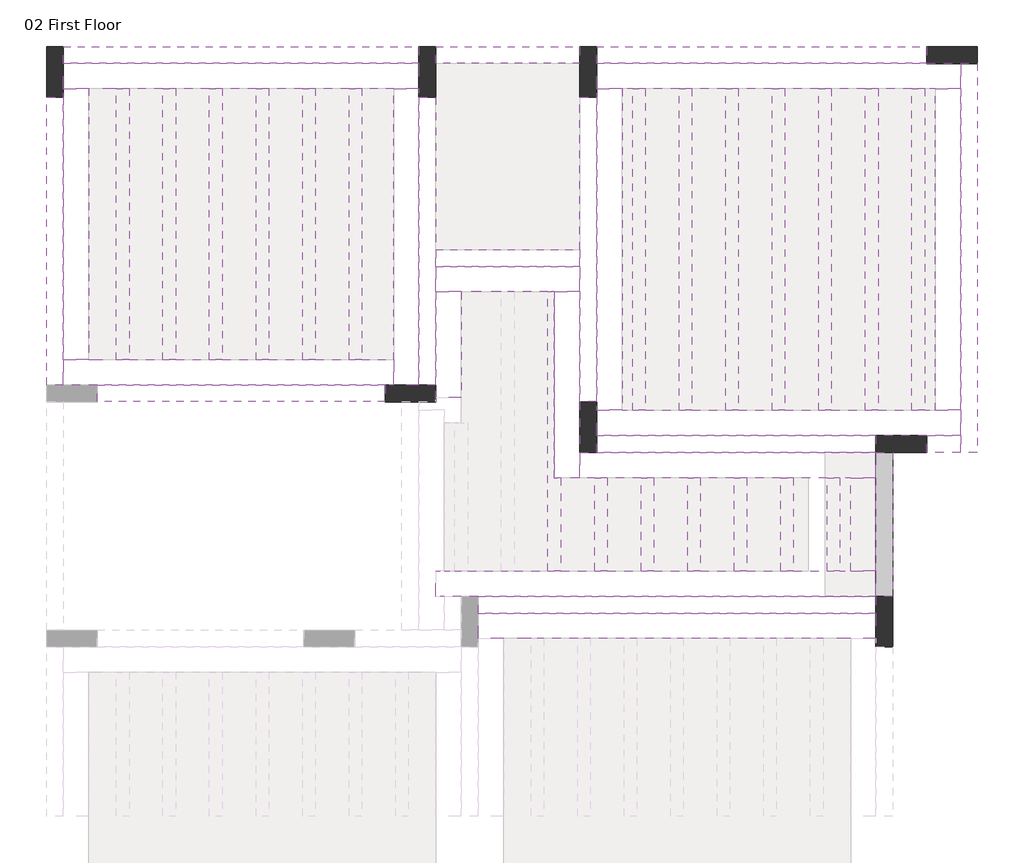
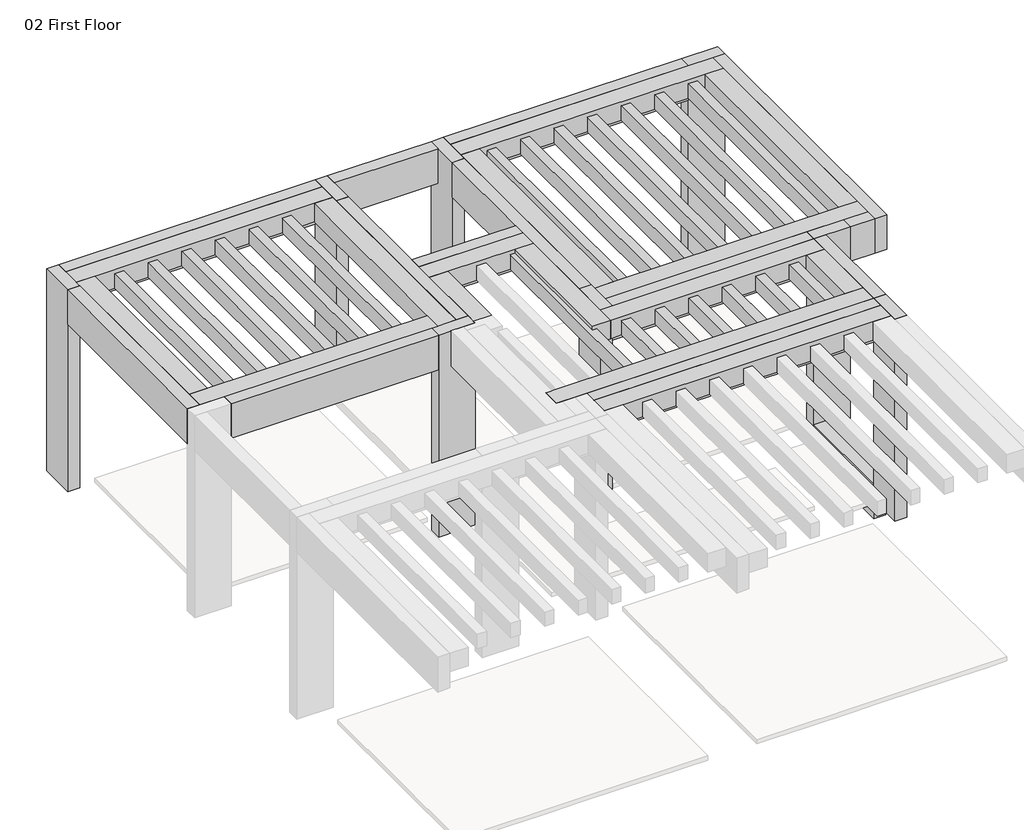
# One storey, part 3 of 3: 49 beams, 8 columns.
"""IFC4 building model written with IfcOpenShell, lengths in millimetres."""

from ifc_helpers import new_model, si_unit, frame, origin, place, context, project, spatial, polyline, outline, extrude, faceted_brep, element, save

model = new_model("IFC4")

# Units and contexts
model_context = context("Model", 3, world=origin())
ifc_project = project(units=[si_unit("LENGTHUNIT", "METRE", prefix="MILLI")], contexts=[model_context])

# Site, building, storey
site = spatial("IfcSite", under=ifc_project)
building = spatial("IfcBuilding", under=site)
storey = spatial("IfcBuildingStorey", under=building, Name="02 First Floor", Elevation=3500.0)

# Beams
placement = place(None, origin())
element("IfcBeam", 1, ObjectType="M_Concrete-Rectangular Beam : DB1- 20 x 60 cm", at=placement, inside=storey, context=model_context, shape_type="Brep", body=[
    faceted_brep([(3998.0737011, 1744.9958345, 3780.0), (4198.0737011, 1744.9958345, 3780.0), (4198.0737011, 3444.9958345, 3780.0), (3998.0737011, 3444.9958345, 3780.0), (4198.0737011, 1744.9958345, 3500.0), (4198.0737011, 1744.9958345, 3180.0), (4198.0737011, 3444.9958345, 3180.0), (3998.0737011, 3444.9958345, 3180.0), (3998.0737011, 1744.9958345, 3180.0), (3998.0737011, 3144.9958345, 3180.0), (3998.0737011, 1744.9958345, 3430.0), (3998.0737011, 1744.9958345, 3500.0), (3998.0737011, 3444.9958345, 3500.0), (3998.0737011, 3444.9958345, 3430.0)], [[[0, 1, 2, 3]], [[2, 1, 4, 5, 6]], [[7, 6, 5, 8, 9]], [[8, 10, 11, 0, 3, 12, 13, 7, 9]], [[1, 0, 11, 10, 8, 5, 4]], [[3, 2, 6, 7, 13, 12]]]),
])
element("IfcBeam", 2, ObjectType="M_Concrete-Rectangular Beam : DB1- 20 x 60 cm", at=placement, inside=storey, context=model_context, shape_type="Brep", body=[
    faceted_brep([(698.0737011, 8244.9958345, 7000.0), (698.0737011, 8044.9958345, 7000.0), (4598.0737011, 8044.9958345, 7000.0), (4598.0737011, 8244.9958345, 7000.0), (698.0737011, 8244.9958345, 6400.0), (4598.0737011, 8244.9958345, 6400.0), (698.0737011, 8044.9958345, 6400.0), (4598.0737011, 8044.9958345, 6400.0), (698.0737011, 8044.9958345, 6680.0)], [[[0, 1, 2, 3]], [[4, 0, 3, 5]], [[6, 4, 5, 7]], [[1, 8, 6, 7, 2]], [[1, 0, 4, 6, 8]], [[3, 2, 7, 5]]]),
])
element("IfcBeam", 3, ObjectType="M_Concrete-Rectangular Beam : DB1- 20 x 60 cm", at=placement, inside=storey, context=model_context, shape_type="Brep", body=[
    faceted_brep([(-1201.9262989, 8244.9958345, 7000.0), (-1201.9262989, 8044.9958345, 7000.0), (498.0737011, 8044.9958345, 7000.0), (498.0737011, 8244.9958345, 7000.0), (-1201.9262989, 8244.9958345, 6400.0), (498.0737011, 8244.9958345, 6400.0), (-1201.9262989, 8044.9958345, 6400.0), (498.0737011, 8044.9958345, 6400.0), (-1201.9262989, 8044.9958345, 6830.0), (-1201.9262989, 8044.9958345, 6680.0), (498.0737011, 8044.9958345, 6680.0), (498.0737011, 8044.9958345, 6830.0)], [[[0, 1, 2, 3]], [[4, 0, 3, 5]], [[6, 4, 5, 7]], [[1, 8, 9, 6, 7, 10, 11, 2]], [[1, 0, 4, 6, 9, 8]], [[3, 2, 11, 10, 7, 5]]]),
])
element("IfcBeam", 4, ObjectType="M_Concrete-Rectangular Beam : DB1- 20 x 60 cm", at=placement, inside=storey, context=model_context, shape_type="Brep", body=[
    faceted_brep([(-5601.9262989, 8244.9958345, 7000.0), (-5601.9262989, 8044.9958345, 7000.0), (-1401.9262989, 8044.9958345, 7000.0), (-1401.9262989, 8244.9958345, 7000.0), (-5601.9262989, 8244.9958345, 6400.0), (-1401.9262989, 8244.9958345, 6400.0), (-5601.9262989, 8044.9958345, 6400.0), (-1401.9262989, 8044.9958345, 6400.0), (-5601.9262989, 8044.9958345, 6680.0), (-1401.9262989, 8044.9958345, 6680.0)], [[[0, 1, 2, 3]], [[4, 0, 3, 5]], [[6, 4, 5, 7]], [[1, 8, 6, 7, 9, 2]], [[1, 0, 4, 6, 8]], [[3, 2, 9, 7, 5]]]),
])
element("IfcBeam", 5, ObjectType="M_Concrete-Rectangular Beam : DB1- 20 x 60 cm", at=placement, inside=storey, context=model_context, shape_type="Brep", body=[
    faceted_brep([(-5601.9262989, 7644.9958345, 7000.0), (-5801.9262989, 7644.9958345, 7000.0), (-5801.9262989, 4244.9958345, 7000.0), (-5601.9262989, 4244.9958345, 7000.0), (-5601.9262989, 4544.9958345, 7000.0), (-5801.9262989, 7644.9958345, 6400.0), (-5801.9262989, 4244.9958345, 6400.0), (-5601.9262989, 7644.9958345, 6400.0), (-5601.9262989, 4244.9958345, 6400.0), (-5601.9262989, 4244.9958345, 6680.0)], [[[0, 1, 2, 3, 4]], [[1, 5, 6, 2]], [[5, 7, 8, 6]], [[7, 0, 4, 3, 9, 8]], [[1, 0, 7, 5]], [[3, 2, 6, 8, 9]]]),
])
element("IfcBeam", 6, ObjectType="M_Concrete-Rectangular Beam : DB1- 20 x 60 cm", at=placement, inside=storey, context=model_context, shape_type="SweptSolid", body=[
    extrude(outline(polyline([(-1801.9262989, 4244.9958345), (-1801.9262989, 4044.9958345), (-5201.9262989, 4044.9958345), (-5201.9262989, 4244.9958345), (-1801.9262989, 4244.9958345)])), frame((0.0, 0.0, 6400.0), z_axis=(0.0, 0.0, 1.0), x_axis=(1.0, 0.0, 0.0)), (0.0, 0.0, 1.0), 600.0),
])
element("IfcBeam", 7, ObjectType="M_Concrete-Rectangular Beam : DB1- 20 x 60 cm", at=placement, inside=storey, context=model_context, shape_type="Brep", body=[
    faceted_brep([(-1201.9262989, 5844.9958345, 7000.0), (-1201.9262989, 5644.9958345, 7000.0), (498.0737011, 5644.9958345, 7000.0), (498.0737011, 5844.9958345, 7000.0), (-1201.9262989, 5844.9958345, 6400.0), (-1201.9262989, 5844.9958345, 6680.0), (-1201.9262989, 5844.9958345, 6830.0), (498.0737011, 5844.9958345, 6830.0), (498.0737011, 5844.9958345, 6680.0), (498.0737011, 5844.9958345, 6400.0), (-1201.9262989, 5644.9958345, 6400.0), (498.0737011, 5644.9958345, 6400.0), (-1201.9262989, 5644.9958345, 6680.0), (498.0737011, 5644.9958345, 6680.0)], [[[0, 1, 2, 3]], [[4, 5, 6, 0, 3, 7, 8, 9]], [[10, 4, 9, 11]], [[1, 12, 10, 11, 13, 2]], [[1, 0, 6, 5, 4, 10, 12]], [[3, 2, 13, 11, 9, 8, 7]]]),
])
element("IfcBeam", 8, ObjectType="M_Concrete-Rectangular Beam : DB1- 20 x 60 cm", at=placement, inside=storey, context=model_context, shape_type="Brep", body=[
    faceted_brep([(4198.0737011, 3444.9958345, 7000.0), (3998.0737011, 3444.9958345, 7000.0), (3998.0737011, 3144.9958345, 7000.0), (3998.0737011, 2044.9958345, 7000.0), (3998.0737011, 1744.9958345, 7000.0), (4198.0737011, 1744.9958345, 7000.0), (4198.0737011, 3444.9958345, 6400.0), (4198.0737011, 1744.9958345, 6400.0), (3998.0737011, 3444.9958345, 6400.0), (3998.0737011, 1744.9958345, 6400.0), (3998.0737011, 3444.9958345, 6680.0), (3998.0737011, 1744.9958345, 6680.0)], [[[0, 1, 2, 3, 4, 5]], [[6, 0, 5, 7]], [[8, 6, 7, 9]], [[1, 0, 6, 8, 10]], [[4, 11, 9, 7, 5]], [[1, 10, 8, 9, 11, 4, 3, 2]]]),
])
element("IfcBeam", 9, ObjectType="M_Concrete-Rectangular Beam : DB2- 20 x 60 cm", at=placement, inside=storey, context=model_context, shape_type="Brep", body=[
    faceted_brep([(-1201.9262989, 7644.9958345, 7000.0), (-1401.9262989, 7644.9958345, 7000.0), (-1401.9262989, 4244.9958345, 7000.0), (-1201.9262989, 4244.9958345, 7000.0), (-1201.9262989, 5344.9958345, 7000.0), (-1201.9262989, 5644.9958345, 7000.0), (-1201.9262989, 5844.9958345, 7000.0), (-1401.9262989, 7644.9958345, 6400.0), (-1401.9262989, 4244.9958345, 6400.0), (-1401.9262989, 4244.9958345, 6680.0), (-1201.9262989, 7644.9958345, 6400.0), (-1201.9262989, 5844.9958345, 6400.0), (-1201.9262989, 5644.9958345, 6400.0), (-1201.9262989, 4244.9958345, 6400.0)], [[[0, 1, 2, 3, 4, 5, 6]], [[1, 7, 8, 9, 2]], [[7, 10, 11, 12, 13, 8]], [[10, 0, 6, 5, 4, 3, 13, 12, 11]], [[1, 0, 10, 7]], [[3, 2, 9, 8, 13]]]),
])
element("IfcBeam", 10, ObjectType="M_Concrete-Rectangular Beam : DB2- 20 x 60 cm", at=placement, inside=storey, context=model_context, shape_type="Brep", body=[
    faceted_brep([(698.0737011, 7644.9958345, 7000.0), (498.0737011, 7644.9958345, 7000.0), (498.0737011, 5844.9958345, 7000.0), (498.0737011, 5644.9958345, 7000.0), (498.0737011, 5344.9958345, 7000.0), (498.0737011, 4044.9958345, 7000.0), (698.0737011, 4044.9958345, 7000.0), (498.0737011, 7644.9958345, 6400.0), (498.0737011, 5844.9958345, 6400.0), (498.0737011, 5644.9958345, 6400.0), (498.0737011, 4044.9958345, 6400.0), (698.0737011, 7644.9958345, 6400.0), (698.0737011, 4044.9958345, 6400.0)], [[[0, 1, 2, 3, 4, 5, 6]], [[1, 7, 8, 9, 10, 5, 4, 3, 2]], [[7, 11, 12, 10, 9, 8]], [[11, 0, 6, 12]], [[1, 0, 11, 7]], [[6, 5, 10, 12]]]),
])
element("IfcBeam", 11, ObjectType="M_Concrete-Rectangular Beam : DB2- 20 x 60 cm", at=placement, inside=storey, context=model_context, shape_type="Brep", body=[
    faceted_brep([(-701.9262989, 1744.9958345, 7000.0), (-701.9262989, 1544.9958345, 7000.0), (3998.0737011, 1544.9958345, 7000.0), (3998.0737011, 1744.9958345, 7000.0), (-701.9262989, 1544.9958345, 6680.0), (-701.9262989, 1544.9958345, 6400.0), (3998.0737011, 1544.9958345, 6400.0), (3998.0737011, 1544.9958345, 6680.0), (-701.9262989, 1744.9958345, 6400.0), (3998.0737011, 1744.9958345, 6400.0), (3998.0737011, 1744.9958345, 6680.0)], [[[0, 1, 2, 3]], [[1, 4, 5, 6, 7, 2]], [[5, 8, 9, 6]], [[8, 0, 3, 10, 9]], [[1, 0, 8, 5, 4]], [[3, 2, 7, 6, 9, 10]]]),
])
element("IfcBeam", 12, ObjectType="M_Concrete-Rectangular Beam : DB2- 20 x 60 cm", at=placement, inside=storey, context=model_context, shape_type="Brep", body=[
    faceted_brep([(3998.0737011, 3444.9958345, 7000.0), (3998.0737011, 3644.9958345, 7000.0), (698.0737011, 3644.9958345, 7000.0), (698.0737011, 3444.9958345, 7000.0), (3998.0737011, 3644.9958345, 6400.0), (698.0737011, 3644.9958345, 6400.0), (698.0737011, 3644.9958345, 6680.0), (3998.0737011, 3444.9958345, 6400.0), (698.0737011, 3444.9958345, 6400.0), (3998.0737011, 3444.9958345, 6680.0)], [[[0, 1, 2, 3]], [[1, 4, 5, 6, 2]], [[4, 7, 8, 5]], [[7, 9, 0, 3, 8]], [[1, 0, 9, 7, 4]], [[3, 2, 6, 5, 8]]]),
])
element("IfcBeam", 13, ObjectType="M_Concrete-Rectangular Beam : DB2- 20 x 60 cm", at=placement, inside=storey, context=model_context, shape_type="Brep", body=[
    faceted_brep([(4998.0737011, 3444.9958345, 7000.0), (5198.0737011, 3444.9958345, 7000.0), (5198.0737011, 8044.9958345, 7000.0), (4998.0737011, 8044.9958345, 7000.0), (4998.0737011, 7744.9958345, 7000.0), (4998.0737011, 3944.9958345, 7000.0), (4998.0737011, 3644.9958345, 7000.0), (4998.0737011, 3444.9958345, 6400.0), (4998.0737011, 8044.9958345, 6680.0), (4998.0737011, 8044.9958345, 6400.0), (4998.0737011, 3644.9958345, 6400.0), (5198.0737011, 3444.9958345, 6400.0), (5198.0737011, 8044.9958345, 6400.0)], [[[0, 1, 2, 3, 4, 5, 6]], [[7, 0, 6, 5, 4, 3, 8, 9, 10]], [[11, 7, 10, 9, 12]], [[1, 11, 12, 2]], [[1, 0, 7, 11]], [[3, 2, 12, 9, 8]]]),
])
element("IfcBeam", 14, ObjectType="M_Concrete-Rectangular Beam : DBC- 20 x 60 cm", at=placement, inside=storey, context=model_context, shape_type="Brep", body=[
    faceted_brep([(4998.0737011, 3444.9958345, 7000.0), (4998.0737011, 3644.9958345, 7000.0), (4598.0737011, 3644.9958345, 7000.0), (4598.0737011, 3444.9958345, 7000.0), (4998.0737011, 3444.9958345, 6400.0), (4598.0737011, 3444.9958345, 6400.0), (4998.0737011, 3644.9958345, 6400.0), (4598.0737011, 3644.9958345, 6400.0), (4998.0737011, 3644.9958345, 6680.0)], [[[0, 1, 2, 3]], [[4, 0, 3, 5]], [[6, 4, 5, 7]], [[1, 8, 6, 7, 2]], [[1, 0, 4, 6, 8]], [[3, 2, 7, 5]]]),
])
element("IfcBeam", 15, ObjectType="M_Concrete-Rectangular Beam : P- 30 x 32 cm", at=placement, inside=storey, context=model_context, shape_type="Brep", body=[
    faceted_brep([(-5601.9262989, 8044.9958345, 7000.0), (-5601.9262989, 7744.9958345, 7000.0), (-5301.9262989, 7744.9958345, 7000.0), (-1701.9262989, 7744.9958345, 7000.0), (-1401.9262989, 7744.9958345, 7000.0), (-1401.9262989, 8044.9958345, 7000.0), (-5601.9262989, 8044.9958345, 6680.0), (-1401.9262989, 8044.9958345, 6680.0), (-5601.9262989, 7744.9958345, 6680.0), (-1401.9262989, 7744.9958345, 6680.0), (-1701.9262989, 7744.9958345, 6680.0), (-2076.9262989, 7744.9958345, 6680.0), (-2226.9262989, 7744.9958345, 6680.0), (-2626.9262989, 7744.9958345, 6680.0), (-2776.9262989, 7744.9958345, 6680.0), (-3176.9262989, 7744.9958345, 6680.0), (-3326.9262989, 7744.9958345, 6680.0), (-3726.9262989, 7744.9958345, 6680.0), (-3876.9262989, 7744.9958345, 6680.0), (-4276.9262989, 7744.9958345, 6680.0), (-4426.9262989, 7744.9958345, 6680.0), (-4826.9262989, 7744.9958345, 6680.0), (-4976.9262989, 7744.9958345, 6680.0), (-5301.9262989, 7744.9958345, 6680.0)], [[[0, 1, 2, 3, 4, 5]], [[6, 0, 5, 7]], [[8, 6, 7, 9, 10, 11, 12, 13, 14, 15, 16, 17, 18, 19, 20, 21, 22, 23]], [[1, 8, 23, 22, 21, 20, 19, 18, 17, 16, 15, 14, 13, 12, 11, 10, 9, 4, 3, 2]], [[8, 1, 0, 6]], [[4, 9, 7, 5]]]),
])
element("IfcBeam", 16, ObjectType="M_Concrete-Rectangular Beam : P- 30 x 32 cm", at=placement, inside=storey, context=model_context, shape_type="Brep", body=[
    faceted_brep([(-1701.9262989, 4244.9958345, 7000.0), (-1401.9262989, 4244.9958345, 7000.0), (-1401.9262989, 7644.9958345, 7000.0), (-1401.9262989, 7744.9958345, 7000.0), (-1701.9262989, 7744.9958345, 7000.0), (-1701.9262989, 4544.9958345, 7000.0), (-1701.9262989, 4244.9958345, 6680.0), (-1701.9262989, 7744.9958345, 6930.0), (-1701.9262989, 7744.9958345, 6680.0), (-1701.9262989, 4544.9958345, 6680.0), (-1401.9262989, 4244.9958345, 6680.0), (-1401.9262989, 7744.9958345, 6680.0)], [[[0, 1, 2, 3, 4, 5]], [[6, 0, 5, 4, 7, 8, 9]], [[10, 6, 9, 8, 11]], [[1, 10, 11, 3, 2]], [[4, 3, 11, 8, 7]], [[1, 0, 6, 10]]]),
])
element("IfcBeam", 17, ObjectType="M_Concrete-Rectangular Beam : P- 30 x 32 cm", at=placement, inside=storey, context=model_context, shape_type="Brep", body=[
    faceted_brep([(-5601.9262989, 4544.9958345, 7000.0), (-5601.9262989, 4244.9958345, 7000.0), (-5201.9262989, 4244.9958345, 7000.0), (-1801.9262989, 4244.9958345, 7000.0), (-1701.9262989, 4244.9958345, 7000.0), (-1701.9262989, 4544.9958345, 7000.0), (-5301.9262989, 4544.9958345, 7000.0), (-5601.9262989, 4544.9958345, 6680.0), (-1701.9262989, 4544.9958345, 6930.0), (-1701.9262989, 4544.9958345, 6680.0), (-2076.9262989, 4544.9958345, 6680.0), (-2226.9262989, 4544.9958345, 6680.0), (-2626.9262989, 4544.9958345, 6680.0), (-2776.9262989, 4544.9958345, 6680.0), (-3176.9262989, 4544.9958345, 6680.0), (-3326.9262989, 4544.9958345, 6680.0), (-3726.9262989, 4544.9958345, 6680.0), (-3876.9262989, 4544.9958345, 6680.0), (-4276.9262989, 4544.9958345, 6680.0), (-4426.9262989, 4544.9958345, 6680.0), (-4826.9262989, 4544.9958345, 6680.0), (-4976.9262989, 4544.9958345, 6680.0), (-5301.9262989, 4544.9958345, 6680.0), (-5601.9262989, 4244.9958345, 6680.0), (-1701.9262989, 4244.9958345, 6680.0)], [[[0, 1, 2, 3, 4, 5, 6]], [[7, 0, 6, 5, 8, 9, 10, 11, 12, 13, 14, 15, 16, 17, 18, 19, 20, 21, 22]], [[23, 7, 22, 21, 20, 19, 18, 17, 16, 15, 14, 13, 12, 11, 10, 9, 24]], [[1, 23, 24, 4, 3, 2]], [[5, 4, 24, 9, 8]], [[1, 0, 7, 23]]]),
])
element("IfcBeam", 18, ObjectType="M_Concrete-Rectangular Beam : P- 30 x 32 cm", at=placement, inside=storey, context=model_context, shape_type="Brep", body=[
    faceted_brep([(-5601.9262989, 4544.9958345, 7000.0), (-5301.9262989, 4544.9958345, 7000.0), (-5301.9262989, 7744.9958345, 7000.0), (-5601.9262989, 7744.9958345, 7000.0), (-5601.9262989, 7644.9958345, 7000.0), (-5301.9262989, 4544.9958345, 6930.0), (-5301.9262989, 4544.9958345, 6680.0), (-5301.9262989, 7744.9958345, 6680.0), (-5301.9262989, 7744.9958345, 6930.0), (-5601.9262989, 4544.9958345, 6680.0), (-5601.9262989, 7744.9958345, 6680.0)], [[[0, 1, 2, 3, 4]], [[1, 5, 6, 7, 8, 2]], [[6, 9, 10, 7]], [[9, 0, 4, 3, 10]], [[1, 0, 9, 6, 5]], [[3, 2, 8, 7, 10]]]),
])
element("IfcBeam", 19, ObjectType="M_Concrete-Rectangular Beam : P- 30 x 32 cm", at=placement, inside=storey, context=model_context, shape_type="Brep", body=[
    faceted_brep([(4998.0737011, 7744.9958345, 7000.0), (4998.0737011, 8044.9958345, 7000.0), (4598.0737011, 8044.9958345, 7000.0), (698.0737011, 8044.9958345, 7000.0), (698.0737011, 7744.9958345, 7000.0), (998.0737011, 7744.9958345, 7000.0), (4698.0737011, 7744.9958345, 7000.0), (4998.0737011, 8044.9958345, 6680.0), (698.0737011, 8044.9958345, 6680.0), (4998.0737011, 7744.9958345, 6680.0), (4698.0737011, 7744.9958345, 6680.0), (4573.0737011, 7744.9958345, 6680.0), (4423.0737011, 7744.9958345, 6680.0), (4023.0737011, 7744.9958345, 6680.0), (3873.0737011, 7744.9958345, 6680.0), (3473.0737011, 7744.9958345, 6680.0), (3323.0737011, 7744.9958345, 6680.0), (2923.0737011, 7744.9958345, 6680.0), (2773.0737011, 7744.9958345, 6680.0), (2373.0737011, 7744.9958345, 6680.0), (2223.0737011, 7744.9958345, 6680.0), (1823.0737011, 7744.9958345, 6680.0), (1673.0737011, 7744.9958345, 6680.0), (1273.0737011, 7744.9958345, 6680.0), (1123.0737011, 7744.9958345, 6680.0), (998.0737011, 7744.9958345, 6680.0), (698.0737011, 7744.9958345, 6680.0)], [[[0, 1, 2, 3, 4, 5, 6]], [[1, 7, 8, 3, 2]], [[7, 9, 10, 11, 12, 13, 14, 15, 16, 17, 18, 19, 20, 21, 22, 23, 24, 25, 26, 8]], [[9, 0, 6, 5, 4, 26, 25, 24, 23, 22, 21, 20, 19, 18, 17, 16, 15, 14, 13, 12, 11, 10]], [[1, 0, 9, 7]], [[3, 8, 26, 4]]]),
])
element("IfcBeam", 20, ObjectType="M_Concrete-Rectangular Beam : P- 30 x 32 cm", at=placement, inside=storey, context=model_context, shape_type="Brep", body=[
    faceted_brep([(998.0737011, 7744.9958345, 7000.0), (698.0737011, 7744.9958345, 7000.0), (698.0737011, 7644.9958345, 7000.0), (698.0737011, 4044.9958345, 7000.0), (698.0737011, 3944.9958345, 7000.0), (998.0737011, 3944.9958345, 7000.0), (698.0737011, 7744.9958345, 6680.0), (698.0737011, 3944.9958345, 6680.0), (998.0737011, 7744.9958345, 6680.0), (998.0737011, 3944.9958345, 6680.0), (998.0737011, 7744.9958345, 6930.0), (998.0737011, 3944.9958345, 6930.0)], [[[0, 1, 2, 3, 4, 5]], [[1, 6, 7, 4, 3, 2]], [[6, 8, 9, 7]], [[8, 10, 0, 5, 11, 9]], [[1, 0, 10, 8, 6]], [[5, 4, 7, 9, 11]]]),
])
element("IfcBeam", 21, ObjectType="M_Concrete-Rectangular Beam : P- 30 x 32 cm", at=placement, inside=storey, context=model_context, shape_type="Brep", body=[
    faceted_brep([(4998.0737011, 3644.9958345, 7000.0), (4998.0737011, 3944.9958345, 7000.0), (4698.0737011, 3944.9958345, 7000.0), (998.0737011, 3944.9958345, 7000.0), (698.0737011, 3944.9958345, 7000.0), (698.0737011, 3644.9958345, 7000.0), (3998.0737011, 3644.9958345, 7000.0), (4598.0737011, 3644.9958345, 7000.0), (4998.0737011, 3644.9958345, 6680.0), (698.0737011, 3644.9958345, 6680.0), (4998.0737011, 3944.9958345, 6680.0), (698.0737011, 3944.9958345, 6680.0), (998.0737011, 3944.9958345, 6680.0), (1123.0737011, 3944.9958345, 6680.0), (1273.0737011, 3944.9958345, 6680.0), (1673.0737011, 3944.9958345, 6680.0), (1823.0737011, 3944.9958345, 6680.0), (2223.0737011, 3944.9958345, 6680.0), (2373.0737011, 3944.9958345, 6680.0), (2773.0737011, 3944.9958345, 6680.0), (2923.0737011, 3944.9958345, 6680.0), (3323.0737011, 3944.9958345, 6680.0), (3473.0737011, 3944.9958345, 6680.0), (3873.0737011, 3944.9958345, 6680.0), (4023.0737011, 3944.9958345, 6680.0), (4423.0737011, 3944.9958345, 6680.0), (4573.0737011, 3944.9958345, 6680.0), (4698.0737011, 3944.9958345, 6680.0)], [[[0, 1, 2, 3, 4, 5, 6, 7]], [[8, 0, 7, 6, 5, 9]], [[10, 8, 9, 11, 12, 13, 14, 15, 16, 17, 18, 19, 20, 21, 22, 23, 24, 25, 26, 27]], [[1, 10, 27, 26, 25, 24, 23, 22, 21, 20, 19, 18, 17, 16, 15, 14, 13, 12, 11, 4, 3, 2]], [[1, 0, 8, 10]], [[4, 11, 9, 5]]]),
])
element("IfcBeam", 22, ObjectType="M_Concrete-Rectangular Beam : P- 30 x 32 cm", at=placement, inside=storey, context=model_context, shape_type="Brep", body=[
    faceted_brep([(4998.0737011, 7744.9958345, 7000.0), (4698.0737011, 7744.9958345, 7000.0), (4698.0737011, 3944.9958345, 7000.0), (4998.0737011, 3944.9958345, 7000.0), (4998.0737011, 7744.9958345, 6680.0), (4998.0737011, 3944.9958345, 6680.0), (4698.0737011, 7744.9958345, 6680.0), (4698.0737011, 3944.9958345, 6680.0), (4698.0737011, 7744.9958345, 6930.0), (4698.0737011, 3944.9958345, 6930.0)], [[[0, 1, 2, 3]], [[4, 0, 3, 5]], [[6, 4, 5, 7]], [[1, 8, 6, 7, 9, 2]], [[1, 0, 4, 6, 8]], [[3, 2, 9, 7, 5]]]),
])
element("IfcBeam", 23, ObjectType="M_Concrete-Rectangular Beam : P- 30 x 32 cm", at=placement, inside=storey, context=model_context, shape_type="Brep", body=[
    faceted_brep([(-701.9262989, 1544.9958345, 7000.0), (-701.9262989, 1244.9958345, 7000.0), (-401.9262989, 1244.9958345, 7000.0), (3698.0737011, 1244.9958345, 7000.0), (3998.0737011, 1244.9958345, 7000.0), (3998.0737011, 1544.9958345, 7000.0), (-701.9262989, 1544.9958345, 6680.0), (3998.0737011, 1544.9958345, 6680.0), (-701.9262989, 1244.9958345, 6680.0), (3998.0737011, 1244.9958345, 6680.0), (3698.0737011, 1244.9958345, 6680.0), (3373.0737011, 1244.9958345, 6680.0), (3223.0737011, 1244.9958345, 6680.0), (2823.0737011, 1244.9958345, 6680.0), (2673.0737011, 1244.9958345, 6680.0), (2273.0737011, 1244.9958345, 6680.0), (2123.0737011, 1244.9958345, 6680.0), (1723.0737011, 1244.9958345, 6680.0), (1573.0737011, 1244.9958345, 6680.0), (1173.0737011, 1244.9958345, 6680.0), (1023.0737011, 1244.9958345, 6680.0), (623.0737011, 1244.9958345, 6680.0), (473.0737011, 1244.9958345, 6680.0), (73.0737011, 1244.9958345, 6680.0), (-76.9262989, 1244.9958345, 6680.0), (-401.9262989, 1244.9958345, 6680.0)], [[[0, 1, 2, 3, 4, 5]], [[6, 0, 5, 7]], [[8, 6, 7, 9, 10, 11, 12, 13, 14, 15, 16, 17, 18, 19, 20, 21, 22, 23, 24, 25]], [[1, 8, 25, 24, 23, 22, 21, 20, 19, 18, 17, 16, 15, 14, 13, 12, 11, 10, 9, 4, 3, 2]], [[1, 0, 6, 8]], [[5, 4, 9, 7]]]),
])
element("IfcBeam", 24, ObjectType="M_Concrete-Rectangular Beam : P- 30 x 32 cm", at=placement, inside=storey, context=model_context, shape_type="Brep", body=[
    faceted_brep([(498.0737011, 5344.9958345, 7000.0), (498.0737011, 5644.9958345, 7000.0), (-1201.9262989, 5644.9958345, 7000.0), (-1201.9262989, 5344.9958345, 7000.0), (-901.9262989, 5344.9958345, 7000.0), (198.0737011, 5344.9958345, 7000.0), (498.0737011, 5344.9958345, 6680.0), (-1201.9262989, 5344.9958345, 6680.0), (-901.9262989, 5344.9958345, 6680.0), (-426.9262989, 5344.9958345, 6680.0), (-276.9262989, 5344.9958345, 6680.0), (123.0737011, 5344.9958345, 6680.0), (198.0737011, 5344.9958345, 6680.0), (498.0737011, 5644.9958345, 6680.0), (-1201.9262989, 5644.9958345, 6680.0)], [[[0, 1, 2, 3, 4, 5]], [[6, 0, 5, 4, 3, 7, 8, 9, 10, 11, 12]], [[13, 6, 12, 11, 10, 9, 8, 7, 14]], [[1, 13, 14, 2]], [[1, 0, 6, 13]], [[3, 2, 14, 7]]]),
])
element("IfcBeam", 25, ObjectType="M_Concrete-Rectangular Beam : P- 30 x 32 cm", at=placement, inside=storey, context=model_context, shape_type="Brep", body=[
    faceted_brep([(498.0737011, 5344.9958345, 7000.0), (198.0737011, 5344.9958345, 7000.0), (198.0737011, 3144.9958345, 7000.0), (498.0737011, 3144.9958345, 7000.0), (498.0737011, 3444.9958345, 7000.0), (498.0737011, 4044.9958345, 7000.0), (198.0737011, 5344.9958345, 6930.0), (198.0737011, 5344.9958345, 6680.0), (198.0737011, 3144.9958345, 6680.0), (198.0737011, 3144.9958345, 6930.0), (498.0737011, 5344.9958345, 6680.0), (498.0737011, 3444.9958345, 6680.0), (498.0737011, 3144.9958345, 6680.0), (273.0737011, 3144.9958345, 6680.0), (498.0737011, 3144.9958345, 6930.0)], [[[0, 1, 2, 3, 4, 5]], [[2, 1, 6, 7, 8, 9]], [[7, 10, 11, 12, 13, 8]], [[10, 0, 5, 4, 3, 14, 12, 11]], [[1, 0, 10, 7, 6]], [[3, 2, 9, 8, 13, 12, 14]]]),
])
element("IfcBeam", 26, ObjectType="M_Concrete-Rectangular Beam : P- 30 x 32 cm", at=placement, inside=storey, context=model_context, shape_type="Brep", body=[
    faceted_brep([(498.0737011, 3444.9958345, 7000.0), (498.0737011, 3144.9958345, 7000.0), (3698.0737011, 3144.9958345, 7000.0), (3998.0737011, 3144.9958345, 7000.0), (3998.0737011, 3444.9958345, 7000.0), (698.0737011, 3444.9958345, 7000.0), (498.0737011, 3144.9958345, 6680.0), (673.0737011, 3144.9958345, 6680.0), (823.0737011, 3144.9958345, 6680.0), (1223.0737011, 3144.9958345, 6680.0), (1373.0737011, 3144.9958345, 6680.0), (1773.0737011, 3144.9958345, 6680.0), (1923.0737011, 3144.9958345, 6680.0), (2323.0737011, 3144.9958345, 6680.0), (2473.0737011, 3144.9958345, 6680.0), (2873.0737011, 3144.9958345, 6680.0), (3023.0737011, 3144.9958345, 6680.0), (3423.0737011, 3144.9958345, 6680.0), (3573.0737011, 3144.9958345, 6680.0), (3698.0737011, 3144.9958345, 6680.0), (3998.0737011, 3144.9958345, 6680.0), (498.0737011, 3144.9958345, 6930.0), (498.0737011, 3444.9958345, 6680.0), (3998.0737011, 3444.9958345, 6680.0)], [[[0, 1, 2, 3, 4, 5]], [[6, 7, 8, 9, 10, 11, 12, 13, 14, 15, 16, 17, 18, 19, 20, 3, 2, 1, 21]], [[6, 22, 23, 20, 19, 18, 17, 16, 15, 14, 13, 12, 11, 10, 9, 8, 7]], [[22, 0, 5, 4, 23]], [[1, 0, 22, 6, 21]], [[4, 3, 20, 23]]]),
])
element("IfcBeam", 27, ObjectType="M_Concrete-Rectangular Beam : P- 30 x 32 cm", at=placement, inside=storey, context=model_context, shape_type="Brep", body=[
    faceted_brep([(3998.0737011, 3144.9958345, 7000.0), (3698.0737011, 3144.9958345, 7000.0), (3698.0737011, 2044.9958345, 7000.0), (3998.0737011, 2044.9958345, 7000.0), (3698.0737011, 3144.9958345, 6930.0), (3698.0737011, 3144.9958345, 6680.0), (3698.0737011, 2044.9958345, 6680.0), (3698.0737011, 2044.9958345, 6930.0), (3998.0737011, 3144.9958345, 6680.0), (3998.0737011, 2044.9958345, 6680.0)], [[[0, 1, 2, 3]], [[1, 4, 5, 6, 7, 2]], [[5, 8, 9, 6]], [[8, 0, 3, 9]], [[1, 0, 8, 5, 4]], [[3, 2, 7, 6, 9]]]),
])
element("IfcBeam", 28, ObjectType="M_Concrete-Rectangular Beam : P- 30 x 32 cm", at=placement, inside=storey, context=model_context, shape_type="Brep", body=[
    faceted_brep([(-1201.9262989, 2044.9958345, 7000.0), (-1201.9262989, 1744.9958345, 7000.0), (-1101.9262989, 1744.9958345, 7000.0), (-901.9262989, 1744.9958345, 7000.0), (-701.9262989, 1744.9958345, 7000.0), (3998.0737011, 1744.9958345, 7000.0), (3998.0737011, 2044.9958345, 7000.0), (3698.0737011, 2044.9958345, 7000.0), (-1101.9262989, 2044.9958345, 7000.0), (-1201.9262989, 2044.9958345, 6680.0), (3998.0737011, 2044.9958345, 6680.0), (3698.0737011, 2044.9958345, 6680.0), (3573.0737011, 2044.9958345, 6680.0), (3423.0737011, 2044.9958345, 6680.0), (3023.0737011, 2044.9958345, 6680.0), (2873.0737011, 2044.9958345, 6680.0), (2473.0737011, 2044.9958345, 6680.0), (2323.0737011, 2044.9958345, 6680.0), (1923.0737011, 2044.9958345, 6680.0), (1773.0737011, 2044.9958345, 6680.0), (1373.0737011, 2044.9958345, 6680.0), (1223.0737011, 2044.9958345, 6680.0), (823.0737011, 2044.9958345, 6680.0), (673.0737011, 2044.9958345, 6680.0), (273.0737011, 2044.9958345, 6680.0), (123.0737011, 2044.9958345, 6680.0), (-276.9262989, 2044.9958345, 6680.0), (-426.9262989, 2044.9958345, 6680.0), (-826.9262989, 2044.9958345, 6680.0), (-976.9262989, 2044.9958345, 6680.0), (-1101.9262989, 2044.9958345, 6680.0), (-1201.9262989, 1744.9958345, 6680.0), (3998.0737011, 1744.9958345, 6680.0), (-901.9262989, 1744.9958345, 6680.0), (-1101.9262989, 1744.9958345, 6680.0)], [[[0, 1, 2, 3, 4, 5, 6, 7, 8]], [[9, 0, 8, 7, 6, 10, 11, 12, 13, 14, 15, 16, 17, 18, 19, 20, 21, 22, 23, 24, 25, 26, 27, 28, 29, 30]], [[31, 9, 30, 29, 28, 27, 26, 25, 24, 23, 22, 21, 20, 19, 18, 17, 16, 15, 14, 13, 12, 11, 10, 32, 33, 34]], [[1, 31, 34, 33, 32, 5, 4, 3, 2]], [[1, 0, 9, 31]], [[6, 5, 32, 10]]]),
])
element("IfcBeam", 29, ObjectType="M_Concrete-Rectangular Beam : P- 30 x 32 cm", at=placement, inside=storey, context=model_context, shape_type="Brep", body=[
    faceted_brep([(-1201.9262989, 4094.9958345, 7000.0), (-901.9262989, 4094.9958345, 7000.0), (-901.9262989, 5344.9958345, 7000.0), (-1201.9262989, 5344.9958345, 7000.0), (-1201.9262989, 4244.9958345, 7000.0), (-901.9262989, 4094.9958345, 6930.0), (-901.9262989, 4094.9958345, 6680.0), (-901.9262989, 5344.9958345, 6680.0), (-901.9262989, 5344.9958345, 6930.0), (-1201.9262989, 4094.9958345, 6680.0), (-1201.9262989, 5344.9958345, 6680.0)], [[[0, 1, 2, 3, 4]], [[2, 1, 5, 6, 7, 8]], [[6, 9, 10, 7]], [[9, 0, 4, 3, 10]], [[1, 0, 9, 6, 5]], [[3, 2, 8, 7, 10]]]),
])
element("IfcBeam", 30, ObjectType="M_Pan Joist : RB1- 32 x 15", at=placement, inside=storey, context=model_context, shape_type="SweptSolid", body=[
    extrude(outline(polyline([(-4976.9262989, 7744.9958345), (-4826.9262989, 7744.9958345), (-4826.9262989, 4544.9958345), (-4976.9262989, 4544.9958345), (-4976.9262989, 7744.9958345)])), frame((0.0, 0.0, 6680.0), z_axis=(0.0, 0.0, 1.0), x_axis=(1.0, 0.0, 0.0)), (0.0, 0.0, 1.0), 250.0),
])
element("IfcBeam", 31, ObjectType="M_Pan Joist : RB1- 32 x 15", at=placement, inside=storey, context=model_context, shape_type="SweptSolid", body=[
    extrude(outline(polyline([(-4426.9262989, 7744.9958345), (-4276.9262989, 7744.9958345), (-4276.9262989, 4544.9958345), (-4426.9262989, 4544.9958345), (-4426.9262989, 7744.9958345)])), frame((0.0, 0.0, 6680.0), z_axis=(0.0, 0.0, 1.0), x_axis=(1.0, 0.0, 0.0)), (0.0, 0.0, 1.0), 250.0),
])
element("IfcBeam", 32, ObjectType="M_Pan Joist : RB1- 32 x 15", at=placement, inside=storey, context=model_context, shape_type="SweptSolid", body=[
    extrude(outline(polyline([(-3876.9262989, 7744.9958345), (-3726.9262989, 7744.9958345), (-3726.9262989, 4544.9958345), (-3876.9262989, 4544.9958345), (-3876.9262989, 7744.9958345)])), frame((0.0, 0.0, 6680.0), z_axis=(0.0, 0.0, 1.0), x_axis=(1.0, 0.0, 0.0)), (0.0, 0.0, 1.0), 250.0),
])
element("IfcBeam", 33, ObjectType="M_Pan Joist : RB1- 32 x 15", at=placement, inside=storey, context=model_context, shape_type="SweptSolid", body=[
    extrude(outline(polyline([(-3326.9262989, 7744.9958345), (-3176.9262989, 7744.9958345), (-3176.9262989, 4544.9958345), (-3326.9262989, 4544.9958345), (-3326.9262989, 7744.9958345)])), frame((0.0, 0.0, 6680.0), z_axis=(0.0, 0.0, 1.0), x_axis=(1.0, 0.0, 0.0)), (0.0, 0.0, 1.0), 250.0),
])
element("IfcBeam", 34, ObjectType="M_Pan Joist : RB1- 32 x 15", at=placement, inside=storey, context=model_context, shape_type="SweptSolid", body=[
    extrude(outline(polyline([(-2776.9262989, 7744.9958345), (-2626.9262989, 7744.9958345), (-2626.9262989, 4544.9958345), (-2776.9262989, 4544.9958345), (-2776.9262989, 7744.9958345)])), frame((0.0, 0.0, 6680.0), z_axis=(0.0, 0.0, 1.0), x_axis=(1.0, 0.0, 0.0)), (0.0, 0.0, 1.0), 250.0),
])
element("IfcBeam", 35, ObjectType="M_Pan Joist : RB1- 32 x 15", at=placement, inside=storey, context=model_context, shape_type="SweptSolid", body=[
    extrude(outline(polyline([(-2226.9262989, 7744.9958345), (-2076.9262989, 7744.9958345), (-2076.9262989, 4544.9958345), (-2226.9262989, 4544.9958345), (-2226.9262989, 7744.9958345)])), frame((0.0, 0.0, 6680.0), z_axis=(0.0, 0.0, 1.0), x_axis=(1.0, 0.0, 0.0)), (0.0, 0.0, 1.0), 250.0),
])
element("IfcBeam", 36, ObjectType="M_Pan Joist : RB1- 32 x 15", at=placement, inside=storey, context=model_context, shape_type="SweptSolid", body=[
    extrude(outline(polyline([(4423.0737011, 7744.9958345), (4573.0737011, 7744.9958345), (4573.0737011, 3944.9958345), (4423.0737011, 3944.9958345), (4423.0737011, 7744.9958345)])), frame((0.0, 0.0, 6680.0), z_axis=(0.0, 0.0, 1.0), x_axis=(1.0, 0.0, 0.0)), (0.0, 0.0, 1.0), 250.0),
])
element("IfcBeam", 37, ObjectType="M_Pan Joist : RB1- 32 x 15", at=placement, inside=storey, context=model_context, shape_type="SweptSolid", body=[
    extrude(outline(polyline([(3873.0737011, 7744.9958345), (4023.0737011, 7744.9958345), (4023.0737011, 3944.9958345), (3873.0737011, 3944.9958345), (3873.0737011, 7744.9958345)])), frame((0.0, 0.0, 6680.0), z_axis=(0.0, 0.0, 1.0), x_axis=(1.0, 0.0, 0.0)), (0.0, 0.0, 1.0), 250.0),
])
element("IfcBeam", 38, ObjectType="M_Pan Joist : RB1- 32 x 15", at=placement, inside=storey, context=model_context, shape_type="SweptSolid", body=[
    extrude(outline(polyline([(3323.0737011, 7744.9958345), (3473.0737011, 7744.9958345), (3473.0737011, 3944.9958345), (3323.0737011, 3944.9958345), (3323.0737011, 7744.9958345)])), frame((0.0, 0.0, 6680.0), z_axis=(0.0, 0.0, 1.0), x_axis=(1.0, 0.0, 0.0)), (0.0, 0.0, 1.0), 250.0),
])
element("IfcBeam", 39, ObjectType="M_Pan Joist : RB1- 32 x 15", at=placement, inside=storey, context=model_context, shape_type="SweptSolid", body=[
    extrude(outline(polyline([(2773.0737011, 7744.9958345), (2923.0737011, 7744.9958345), (2923.0737011, 3944.9958345), (2773.0737011, 3944.9958345), (2773.0737011, 7744.9958345)])), frame((0.0, 0.0, 6680.0), z_axis=(0.0, 0.0, 1.0), x_axis=(1.0, 0.0, 0.0)), (0.0, 0.0, 1.0), 250.0),
])
element("IfcBeam", 40, ObjectType="M_Pan Joist : RB1- 32 x 15", at=placement, inside=storey, context=model_context, shape_type="SweptSolid", body=[
    extrude(outline(polyline([(2223.0737011, 7744.9958345), (2373.0737011, 7744.9958345), (2373.0737011, 3944.9958345), (2223.0737011, 3944.9958345), (2223.0737011, 7744.9958345)])), frame((0.0, 0.0, 6680.0), z_axis=(0.0, 0.0, 1.0), x_axis=(1.0, 0.0, 0.0)), (0.0, 0.0, 1.0), 250.0),
])
element("IfcBeam", 41, ObjectType="M_Pan Joist : RB1- 32 x 15", at=placement, inside=storey, context=model_context, shape_type="SweptSolid", body=[
    extrude(outline(polyline([(1673.0737011, 7744.9958345), (1823.0737011, 7744.9958345), (1823.0737011, 3944.9958345), (1673.0737011, 3944.9958345), (1673.0737011, 7744.9958345)])), frame((0.0, 0.0, 6680.0), z_axis=(0.0, 0.0, 1.0), x_axis=(1.0, 0.0, 0.0)), (0.0, 0.0, 1.0), 250.0),
])
element("IfcBeam", 42, ObjectType="M_Pan Joist : RB1- 32 x 15", at=placement, inside=storey, context=model_context, shape_type="SweptSolid", body=[
    extrude(outline(polyline([(1123.0737011, 7744.9958345), (1273.0737011, 7744.9958345), (1273.0737011, 3944.9958345), (1123.0737011, 3944.9958345), (1123.0737011, 7744.9958345)])), frame((0.0, 0.0, 6680.0), z_axis=(0.0, 0.0, 1.0), x_axis=(1.0, 0.0, 0.0)), (0.0, 0.0, 1.0), 250.0),
])
element("IfcBeam", 43, ObjectType="M_Pan Joist : RB1- 32 x 15", at=placement, inside=storey, context=model_context, shape_type="SweptSolid", body=[
    extrude(outline(polyline([(2873.0737011, 3144.9958345), (3023.0737011, 3144.9958345), (3023.0737011, 2044.9958345), (2873.0737011, 2044.9958345), (2873.0737011, 3144.9958345)])), frame((0.0, 0.0, 6680.0), z_axis=(0.0, 0.0, 1.0), x_axis=(1.0, 0.0, 0.0)), (0.0, 0.0, 1.0), 250.0),
])
element("IfcBeam", 44, ObjectType="M_Pan Joist : RB1- 32 x 15", at=placement, inside=storey, context=model_context, shape_type="SweptSolid", body=[
    extrude(outline(polyline([(2323.0737011, 3144.9958345), (2473.0737011, 3144.9958345), (2473.0737011, 2044.9958345), (2323.0737011, 2044.9958345), (2323.0737011, 3144.9958345)])), frame((0.0, 0.0, 6680.0), z_axis=(0.0, 0.0, 1.0), x_axis=(1.0, 0.0, 0.0)), (0.0, 0.0, 1.0), 250.0),
])
element("IfcBeam", 45, ObjectType="M_Pan Joist : RB1- 32 x 15", at=placement, inside=storey, context=model_context, shape_type="SweptSolid", body=[
    extrude(outline(polyline([(1773.0737011, 3144.9958345), (1923.0737011, 3144.9958345), (1923.0737011, 2044.9958345), (1773.0737011, 2044.9958345), (1773.0737011, 3144.9958345)])), frame((0.0, 0.0, 6680.0), z_axis=(0.0, 0.0, 1.0), x_axis=(1.0, 0.0, 0.0)), (0.0, 0.0, 1.0), 250.0),
])
element("IfcBeam", 46, ObjectType="M_Pan Joist : RB1- 32 x 15", at=placement, inside=storey, context=model_context, shape_type="SweptSolid", body=[
    extrude(outline(polyline([(1223.0737011, 3144.9958345), (1373.0737011, 3144.9958345), (1373.0737011, 2044.9958345), (1223.0737011, 2044.9958345), (1223.0737011, 3144.9958345)])), frame((0.0, 0.0, 6680.0), z_axis=(0.0, 0.0, 1.0), x_axis=(1.0, 0.0, 0.0)), (0.0, 0.0, 1.0), 250.0),
])
element("IfcBeam", 47, ObjectType="M_Pan Joist : RB1- 32 x 15", at=placement, inside=storey, context=model_context, shape_type="SweptSolid", body=[
    extrude(outline(polyline([(673.0737011, 3144.9958345), (823.0737011, 3144.9958345), (823.0737011, 2044.9958345), (673.0737011, 2044.9958345), (673.0737011, 3144.9958345)])), frame((0.0, 0.0, 6680.0), z_axis=(0.0, 0.0, 1.0), x_axis=(1.0, 0.0, 0.0)), (0.0, 0.0, 1.0), 250.0),
])
element("IfcBeam", 48, ObjectType="M_Pan Joist : RB1- 32 x 15", at=placement, inside=storey, context=model_context, shape_type="SweptSolid", body=[
    extrude(outline(polyline([(123.0737011, 2044.9958345), (123.0737011, 5344.9958345), (198.0737011, 5344.9958345), (198.0737011, 3144.9958345), (273.0737011, 3144.9958345), (273.0737011, 2044.9958345), (123.0737011, 2044.9958345)])), frame((0.0, 0.0, 6680.0), z_axis=(0.0, 0.0, 1.0), x_axis=(1.0, 0.0, 0.0)), (0.0, 0.0, 1.0), 250.0),
])
element("IfcBeam", 49, ObjectType="M_Pan Joist : RB1- 32 x 15", at=placement, inside=storey, context=model_context, shape_type="SweptSolid", body=[
    extrude(outline(polyline([(3423.0737011, 3144.9958345), (3573.0737011, 3144.9958345), (3573.0737011, 2044.9958345), (3423.0737011, 2044.9958345), (3423.0737011, 3144.9958345)])), frame((0.0, 0.0, 6680.0), z_axis=(0.0, 0.0, 1.0), x_axis=(1.0, 0.0, 0.0)), (0.0, 0.0, 1.0), 250.0),
])

# Columns
element("IfcColumn", 50, ObjectType="M_Concrete-Rectangular-Column : 20 x 60 cm", at=placement, inside=storey, context=model_context, shape_type="Brep", body=[
    faceted_brep([(-5601.9262989, 8244.9958345, 3500.0), (-5601.9262989, 7644.9958345, 3500.0), (-5801.9262989, 7644.9958345, 3500.0), (-5801.9262989, 8244.9958345, 3500.0), (-5601.9262989, 8244.9958345, 7000.0), (-5601.9262989, 7744.9958345, 7000.0), (-5601.9262989, 7644.9958345, 7000.0), (-5801.9262989, 7644.9958345, 7000.0), (-5801.9262989, 8244.9958345, 7000.0)], [[[0, 1, 2, 3]], [[4, 5, 6, 1, 0]], [[6, 7, 2, 1]], [[7, 8, 3, 2]], [[8, 4, 0, 3]], [[4, 8, 7, 6, 5]]]),
])
element("IfcColumn", 51, ObjectType="M_Concrete-Rectangular-Column : 20 x 60 cm", at=placement, inside=storey, context=model_context, shape_type="Brep", body=[
    faceted_brep([(-1201.9262989, 8244.9958345, 3500.0), (-1201.9262989, 7644.9958345, 3500.0), (-1401.9262989, 7644.9958345, 3500.0), (-1401.9262989, 8244.9958345, 3500.0), (-1201.9262989, 8244.9958345, 7000.0), (-1201.9262989, 7644.9958345, 7000.0), (-1401.9262989, 7644.9958345, 7000.0), (-1401.9262989, 7744.9958345, 7000.0), (-1401.9262989, 8244.9958345, 7000.0)], [[[0, 1, 2, 3]], [[4, 5, 1, 0]], [[5, 6, 2, 1]], [[6, 7, 8, 3, 2]], [[8, 4, 0, 3]], [[4, 8, 7, 6, 5]]]),
])
element("IfcColumn", 52, ObjectType="M_Concrete-Rectangular-Column : 20 x 60 cm", at=placement, inside=storey, context=model_context, shape_type="Brep", body=[
    faceted_brep([(698.0737011, 8244.9958345, 3500.0), (698.0737011, 7644.9958345, 3500.0), (498.0737011, 7644.9958345, 3500.0), (498.0737011, 8244.9958345, 3500.0), (698.0737011, 8244.9958345, 7000.0), (698.0737011, 7744.9958345, 7000.0), (698.0737011, 7644.9958345, 7000.0), (498.0737011, 7644.9958345, 7000.0), (498.0737011, 8244.9958345, 7000.0)], [[[0, 1, 2, 3]], [[4, 5, 6, 1, 0]], [[6, 7, 2, 1]], [[7, 8, 3, 2]], [[8, 4, 0, 3]], [[4, 8, 7, 6, 5]]]),
])
element("IfcColumn", 53, ObjectType="M_Concrete-Rectangular-Column : 20 x 60 cm", at=placement, inside=storey, context=model_context, shape_type="Brep", body=[
    faceted_brep([(4598.0737011, 8244.9958345, 3500.0), (5198.0737011, 8244.9958345, 3500.0), (5198.0737011, 8044.9958345, 3500.0), (4598.0737011, 8044.9958345, 3500.0), (4598.0737011, 8244.9958345, 7000.0), (5198.0737011, 8244.9958345, 7000.0), (5198.0737011, 8044.9958345, 7000.0), (4998.0737011, 8044.9958345, 7000.0), (4598.0737011, 8044.9958345, 7000.0)], [[[0, 1, 2, 3]], [[4, 5, 1, 0]], [[5, 6, 2, 1]], [[6, 7, 8, 3, 2]], [[8, 4, 0, 3]], [[4, 8, 7, 6, 5]]]),
])
element("IfcColumn", 54, ObjectType="M_Concrete-Rectangular-Column : 20 x 60 cm", at=placement, inside=storey, context=model_context, shape_type="Brep", body=[
    faceted_brep([(3998.0737011, 3644.9958345, 3500.0), (4598.0737011, 3644.9958345, 3500.0), (4598.0737011, 3444.9958345, 3500.0), (3998.0737011, 3444.9958345, 3500.0), (3998.0737011, 3644.9958345, 7000.0), (4598.0737011, 3644.9958345, 7000.0), (4598.0737011, 3444.9958345, 7000.0), (3998.0737011, 3444.9958345, 7000.0), (3998.0737011, 3444.9958345, 3780.0)], [[[0, 1, 2, 3]], [[4, 5, 1, 0]], [[5, 6, 2, 1]], [[6, 7, 8, 3, 2]], [[7, 4, 0, 3, 8]], [[4, 7, 6, 5]]]),
])
element("IfcColumn", 55, ObjectType="M_Concrete-Rectangular-Column : 20 x 60 cm", at=placement, inside=storey, context=model_context, shape_type="Brep", body=[
    faceted_brep([(498.0737011, 3444.9958345, 3500.0), (498.0737011, 4044.9958345, 3500.0), (698.0737011, 4044.9958345, 3500.0), (698.0737011, 3444.9958345, 3500.0), (498.0737011, 3444.9958345, 7000.0), (498.0737011, 4044.9958345, 7000.0), (498.0737011, 3444.9958345, 6680.0), (698.0737011, 4044.9958345, 7000.0), (698.0737011, 3944.9958345, 7000.0), (698.0737011, 3444.9958345, 7000.0)], [[[0, 1, 2, 3]], [[4, 5, 1, 0, 6]], [[5, 7, 2, 1]], [[7, 8, 9, 3, 2]], [[9, 4, 6, 0, 3]], [[4, 9, 8, 7, 5]]]),
])
element("IfcColumn", 56, ObjectType="M_Concrete-Rectangular-Column : 20 x 60 cm", at=placement, inside=storey, context=model_context, shape_type="Brep", body=[
    faceted_brep([(-1201.9262989, 4044.9958345, 3500.0), (-1801.9262989, 4044.9958345, 3500.0), (-1801.9262989, 4244.9958345, 3500.0), (-1201.9262989, 4244.9958345, 3500.0), (-1201.9262989, 4044.9958345, 7000.0), (-1401.9262989, 4044.9958345, 7000.0), (-1801.9262989, 4044.9958345, 7000.0), (-1201.9262989, 4044.9958345, 6680.0), (-1801.9262989, 4244.9958345, 7000.0), (-1701.9262989, 4244.9958345, 7000.0), (-1401.9262989, 4244.9958345, 7000.0), (-1201.9262989, 4244.9958345, 7000.0), (-1201.9262989, 4094.9958345, 7000.0)], [[[0, 1, 2, 3]], [[4, 5, 6, 1, 0, 7]], [[6, 8, 2, 1]], [[8, 9, 10, 11, 3, 2]], [[11, 12, 4, 7, 0, 3]], [[4, 12, 11, 10, 9, 8, 6, 5]]]),
])
element("IfcColumn", 57, ObjectType="M_Concrete-Rectangular-Column : 20 x 60 cm", at=placement, inside=storey, context=model_context, shape_type="Brep", body=[
    faceted_brep([(4198.0737011, 1744.9958345, 3500.0), (4198.0737011, 1144.9958345, 3500.0), (3998.0737011, 1144.9958345, 3500.0), (3998.0737011, 1744.9958345, 3500.0), (4198.0737011, 1744.9958345, 7000.0), (4198.0737011, 1144.9958345, 7000.0), (3998.0737011, 1144.9958345, 7000.0), (3998.0737011, 1244.9958345, 7000.0), (3998.0737011, 1544.9958345, 7000.0), (3998.0737011, 1744.9958345, 7000.0)], [[[0, 1, 2, 3]], [[4, 5, 1, 0]], [[5, 6, 2, 1]], [[6, 7, 8, 9, 3, 2]], [[9, 4, 0, 3]], [[4, 9, 8, 7, 6, 5]]]),
])

save(model, "model.ifc")
